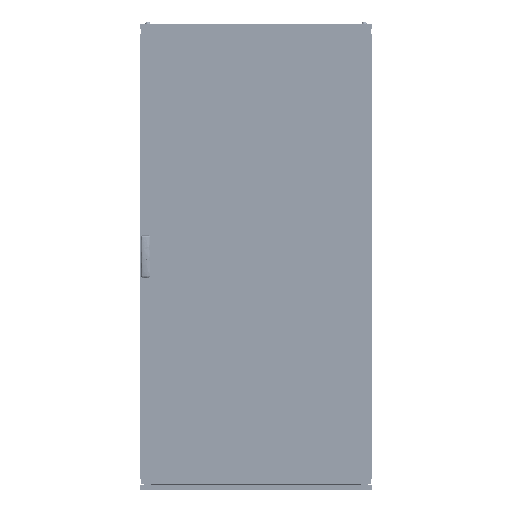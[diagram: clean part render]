
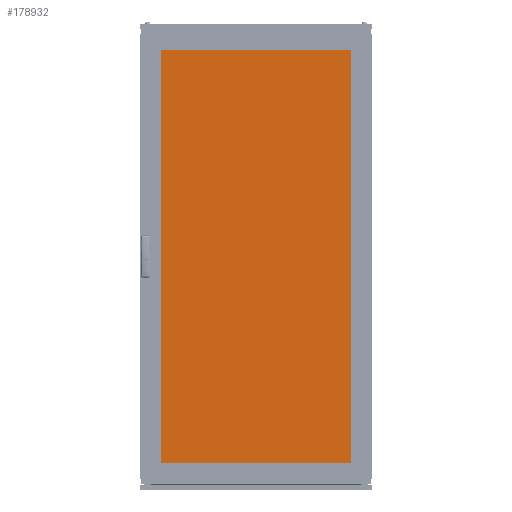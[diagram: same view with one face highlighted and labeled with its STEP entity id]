
A CAD part, top view. The second image highlights one B-rep face of the part: STEP entity #178932.
In plain terms, the highlighted planar face has unit normal (0, 0, 1).
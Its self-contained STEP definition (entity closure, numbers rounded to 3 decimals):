
#141 = VERTEX_POINT ( 'NONE', #95790 ) ;
#18337 = EDGE_CURVE ( 'NONE', #186922, #141, #51380, .T. ) ;
#30530 = VERTEX_POINT ( 'NONE', #79208 ) ;
#31141 = DIRECTION ( 'NONE',  ( -1., 0., 0. ) ) ;
#50888 = LINE ( 'NONE', #155725, #134137 ) ;
#51380 = LINE ( 'NONE', #209674, #103127 ) ;
#63964 = VECTOR ( 'NONE', #129882, 1000. ) ;
#65924 = DIRECTION ( 'NONE',  ( 1., 0., 0. ) ) ;
#72195 = PLANE ( 'NONE',  #79301 ) ;
#76292 = LINE ( 'NONE', #145038, #63964 ) ;
#79208 = CARTESIAN_POINT ( 'NONE',  ( -430., -910., 5. ) ) ;
#79301 = AXIS2_PLACEMENT_3D ( 'NONE', #88580, #217647, #143241 ) ;
#83059 = ORIENTED_EDGE ( 'NONE', *, *, #209296, .T. ) ;
#88580 = CARTESIAN_POINT ( 'NONE',  ( 0., 0., 5. ) ) ;
#95790 = CARTESIAN_POINT ( 'NONE',  ( 430., 910., 5. ) ) ;
#103127 = VECTOR ( 'NONE', #210846, 1000. ) ;
#105311 = EDGE_LOOP ( 'NONE', ( #169151, #83059, #165365, #113875 ) ) ;
#113875 = ORIENTED_EDGE ( 'NONE', *, *, #220233, .T. ) ;
#114924 = CARTESIAN_POINT ( 'NONE',  ( -430., -910., 5. ) ) ;
#127602 = VERTEX_POINT ( 'NONE', #185319 ) ;
#129882 = DIRECTION ( 'NONE',  ( 0., -1., 0. ) ) ;
#134137 = VECTOR ( 'NONE', #31141, 1000. ) ;
#143241 = DIRECTION ( 'NONE',  ( -1., 0., 0. ) ) ;
#145038 = CARTESIAN_POINT ( 'NONE',  ( -430., -910., 5. ) ) ;
#153827 = VECTOR ( 'NONE', #65924, 1000. ) ;
#154399 = LINE ( 'NONE', #114924, #153827 ) ;
#155725 = CARTESIAN_POINT ( 'NONE',  ( -430., 910., 5. ) ) ;
#165365 = ORIENTED_EDGE ( 'NONE', *, *, #189635, .T. ) ;
#169151 = ORIENTED_EDGE ( 'NONE', *, *, #18337, .T. ) ;
#178932 = ADVANCED_FACE ( 'NONE', ( #215354 ), #72195, .F. ) ;
#185319 = CARTESIAN_POINT ( 'NONE',  ( -430., 910., 5. ) ) ;
#186922 = VERTEX_POINT ( 'NONE', #191237 ) ;
#189635 = EDGE_CURVE ( 'NONE', #127602, #30530, #76292, .T. ) ;
#191237 = CARTESIAN_POINT ( 'NONE',  ( 430., -910., 5. ) ) ;
#209296 = EDGE_CURVE ( 'NONE', #141, #127602, #50888, .T. ) ;
#209674 = CARTESIAN_POINT ( 'NONE',  ( 430., -910., 5. ) ) ;
#210846 = DIRECTION ( 'NONE',  ( 0., 1., 0. ) ) ;
#215354 = FACE_OUTER_BOUND ( 'NONE', #105311, .T. ) ;
#217647 = DIRECTION ( 'NONE',  ( 0., 0., -1. ) ) ;
#220233 = EDGE_CURVE ( 'NONE', #30530, #186922, #154399, .T. ) ;
